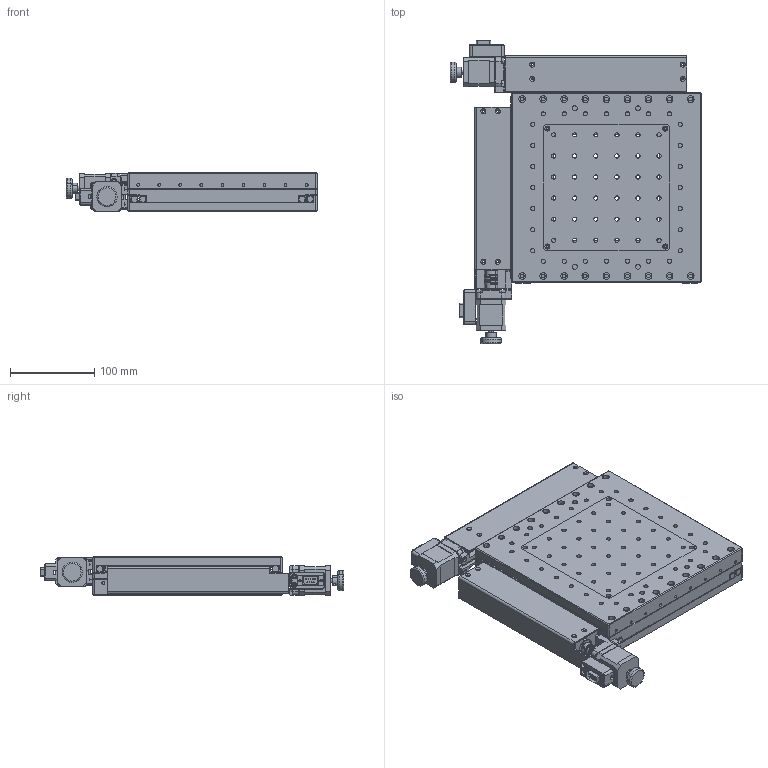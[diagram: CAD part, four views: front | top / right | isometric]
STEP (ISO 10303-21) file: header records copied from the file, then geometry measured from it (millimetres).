
FILE_DESCRIPTION (( 'STEP AP203' ), '1' );
FILE_NAME ('ZT-LMWZ2378-100-0.STEP', '2024-04-16T03:50:40', ( '' ), ( '' ), 'SwSTEP 2.0', 'SolidWorks 2016', '' );
FILE_SCHEMA (( 'CONFIG_CONTROL_DESIGN' ));
Products named in the file (1): ZT-LMWZ2378-100-0
Bounding box: 298.8 x 360.5 x 47 mm (x, y, z)
Surface area: 455707.9 mm2 (no closed solid volume)
Topology: 0 solids, 45 shells, 1327 faces, 5198 edges, 3852 vertices
Faces by surface type: cylinder 573, plane 561, cone 121, torus 36, bspline 36
Entity records: 63053 total; most frequent: CARTESIAN_POINT 19339, DIRECTION 9095, ORIENTED_EDGE 8084, EDGE_CURVE 5190, VERTEX_POINT 3852, AXIS2_PLACEMENT_3D 3385, VECTOR 2325, LINE 2325
